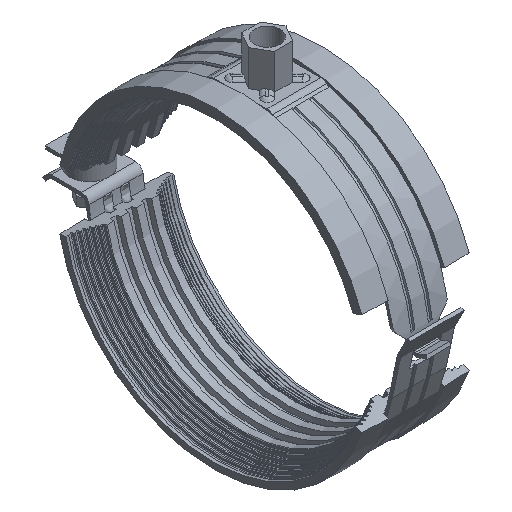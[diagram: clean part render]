
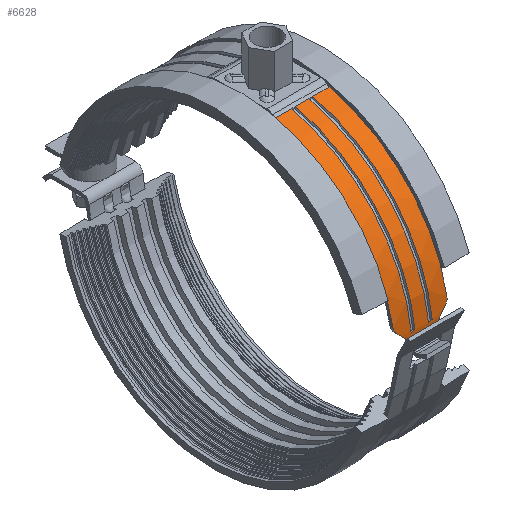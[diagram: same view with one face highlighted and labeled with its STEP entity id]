
A CAD part, isometric view. The second image highlights one B-rep face of the part: STEP entity #6628.
In plain terms, the highlighted cylindrical face has radius 72 mm (diameter 144 mm), a partial arc.
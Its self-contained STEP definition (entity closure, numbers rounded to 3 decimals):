
#41=B_SPLINE_CURVE_WITH_KNOTS('',3,(#10910,#10911,#10912,#10913,#10914,
#10915),.UNSPECIFIED.,.F.,.F.,(4,2,4),(0.861,0.942,
1.131),.UNSPECIFIED.);
#43=B_SPLINE_CURVE_WITH_KNOTS('',3,(#10926,#10927,#10928,#10929,#10930,
#10931),.UNSPECIFIED.,.F.,.F.,(4,2,4),(1.885,2.073,
2.155),.UNSPECIFIED.);
#45=B_SPLINE_CURVE_WITH_KNOTS('',3,(#10948,#10949,#10950,#10951,#10952,
#10953),.UNSPECIFIED.,.F.,.F.,(4,2,4),(0.61,0.763,
0.915),.UNSPECIFIED.);
#46=B_SPLINE_CURVE_WITH_KNOTS('',3,(#10957,#10958,#10959,#10960,#10961,
#10962),.UNSPECIFIED.,.F.,.F.,(4,2,4),(0.302,0.454,
0.607),.UNSPECIFIED.);
#201=ELLIPSE('',#7207,101.823,72.);
#202=ELLIPSE('',#7211,101.823,72.);
#263=CYLINDRICAL_SURFACE('',#7215,72.);
#512=CIRCLE('',#7112,72.);
#513=CIRCLE('',#7113,72.);
#516=CIRCLE('',#7119,72.);
#517=CIRCLE('',#7120,72.);
#564=CIRCLE('',#7213,72.);
#565=CIRCLE('',#7216,72.);
#928=FACE_OUTER_BOUND('',#1286,.T.);
#1286=EDGE_LOOP('',(#5087,#5088,#5089,#5090,#5091,#5092,#5093,#5094,#5095,
#5096,#5097,#5098,#5099,#5100,#5101,#5102,#5103,#5104));
#1641=LINE('',#10470,#2148);
#1649=LINE('',#10505,#2156);
#1692=LINE('',#10773,#2199);
#1693=LINE('',#10777,#2200);
#1694=LINE('',#10778,#2201);
#1713=LINE('',#10963,#2220);
#2148=VECTOR('',#8424,1.776);
#2156=VECTOR('',#8446,1.776);
#2199=VECTOR('',#8597,7.612);
#2200=VECTOR('',#8602,7.612);
#2201=VECTOR('',#8603,6.224);
#2220=VECTOR('',#8700,11.244);
#2742=VERTEX_POINT('',#10453);
#2743=VERTEX_POINT('',#10455);
#2744=VERTEX_POINT('',#10464);
#2745=VERTEX_POINT('',#10466);
#2750=VERTEX_POINT('',#10488);
#2751=VERTEX_POINT('',#10490);
#2752=VERTEX_POINT('',#10499);
#2753=VERTEX_POINT('',#10501);
#2792=VERTEX_POINT('',#10772);
#2793=VERTEX_POINT('',#10775);
#2805=VERTEX_POINT('',#10890);
#2806=VERTEX_POINT('',#10892);
#2808=VERTEX_POINT('',#10897);
#2810=VERTEX_POINT('',#10917);
#2812=VERTEX_POINT('',#10925);
#2814=VERTEX_POINT('',#10940);
#2815=VERTEX_POINT('',#10944);
#2816=VERTEX_POINT('',#10955);
#3488=EDGE_CURVE('',#2742,#2743,#512,.T.);
#3490=EDGE_CURVE('',#2745,#2744,#513,.T.);
#3492=EDGE_CURVE('',#2743,#2745,#1641,.T.);
#3500=EDGE_CURVE('',#2750,#2751,#516,.T.);
#3502=EDGE_CURVE('',#2753,#2752,#517,.T.);
#3504=EDGE_CURVE('',#2751,#2753,#1649,.T.);
#3579=EDGE_CURVE('',#2792,#2742,#1692,.T.);
#3582=EDGE_CURVE('',#2752,#2793,#1693,.T.);
#3583=EDGE_CURVE('',#2744,#2750,#1694,.T.);
#3612=EDGE_CURVE('',#2806,#2805,#201,.T.);
#3617=EDGE_CURVE('',#2808,#2806,#41,.T.);
#3619=EDGE_CURVE('',#2812,#2810,#43,.T.);
#3624=EDGE_CURVE('',#2814,#2812,#202,.T.);
#3626=EDGE_CURVE('',#2792,#2815,#564,.T.);
#3627=EDGE_CURVE('',#2815,#2805,#45,.T.);
#3628=EDGE_CURVE('',#2816,#2793,#565,.T.);
#3629=EDGE_CURVE('',#2814,#2816,#46,.T.);
#3630=EDGE_CURVE('',#2808,#2810,#1713,.T.);
#5087=ORIENTED_EDGE('',*,*,#3490,.T.);
#5088=ORIENTED_EDGE('',*,*,#3583,.T.);
#5089=ORIENTED_EDGE('',*,*,#3500,.T.);
#5090=ORIENTED_EDGE('',*,*,#3504,.T.);
#5091=ORIENTED_EDGE('',*,*,#3502,.T.);
#5092=ORIENTED_EDGE('',*,*,#3582,.T.);
#5093=ORIENTED_EDGE('',*,*,#3628,.F.);
#5094=ORIENTED_EDGE('',*,*,#3629,.F.);
#5095=ORIENTED_EDGE('',*,*,#3624,.T.);
#5096=ORIENTED_EDGE('',*,*,#3619,.T.);
#5097=ORIENTED_EDGE('',*,*,#3630,.F.);
#5098=ORIENTED_EDGE('',*,*,#3617,.T.);
#5099=ORIENTED_EDGE('',*,*,#3612,.T.);
#5100=ORIENTED_EDGE('',*,*,#3627,.F.);
#5101=ORIENTED_EDGE('',*,*,#3626,.F.);
#5102=ORIENTED_EDGE('',*,*,#3579,.T.);
#5103=ORIENTED_EDGE('',*,*,#3488,.T.);
#5104=ORIENTED_EDGE('',*,*,#3492,.T.);
#6628=ADVANCED_FACE('',(#928),#263,.T.);
#7112=AXIS2_PLACEMENT_3D('',#10457,#8416,#8417);
#7113=AXIS2_PLACEMENT_3D('',#10467,#8419,#8420);
#7119=AXIS2_PLACEMENT_3D('',#10492,#8438,#8439);
#7120=AXIS2_PLACEMENT_3D('',#10502,#8441,#8442);
#7207=AXIS2_PLACEMENT_3D('',#10893,#8674,#8675);
#7211=AXIS2_PLACEMENT_3D('',#10942,#8687,#8688);
#7213=AXIS2_PLACEMENT_3D('',#10946,#8692,#8693);
#7215=AXIS2_PLACEMENT_3D('',#10954,#8696,#8697);
#7216=AXIS2_PLACEMENT_3D('',#10956,#8698,#8699);
#8416=DIRECTION('center_axis',(1.,0.,0.));
#8417=DIRECTION('ref_axis',(0.,-0.224,0.975));
#8419=DIRECTION('center_axis',(-1.,0.,0.));
#8420=DIRECTION('ref_axis',(0.,-0.224,0.975));
#8424=DIRECTION('',(-1.,0.,0.));
#8438=DIRECTION('center_axis',(1.,0.,0.));
#8439=DIRECTION('ref_axis',(0.,-0.224,0.975));
#8441=DIRECTION('center_axis',(-1.,0.,0.));
#8442=DIRECTION('ref_axis',(0.,-0.224,0.975));
#8446=DIRECTION('',(-1.,0.,0.));
#8597=DIRECTION('',(-1.,0.,0.));
#8602=DIRECTION('',(-1.,0.,0.));
#8603=DIRECTION('',(-1.,0.,0.));
#8674=DIRECTION('center_axis',(-0.707,0.,0.707));
#8675=DIRECTION('ref_axis',(-0.707,0.,-0.707));
#8687=DIRECTION('center_axis',(0.707,0.,0.707));
#8688=DIRECTION('ref_axis',(0.707,0.,-0.707));
#8692=DIRECTION('center_axis',(1.,0.,0.));
#8693=DIRECTION('ref_axis',(0.,0.224,-0.975));
#8696=DIRECTION('center_axis',(1.,0.,0.));
#8697=DIRECTION('ref_axis',(0.,0.224,-0.975));
#8698=DIRECTION('center_axis',(-1.,0.,0.));
#8699=DIRECTION('ref_axis',(0.,0.224,-0.975));
#8700=DIRECTION('',(-1.,0.,0.));
#10453=CARTESIAN_POINT('',(4.888,-16.148,70.166));
#10455=CARTESIAN_POINT('',(4.888,-71.53,8.215));
#10457=CARTESIAN_POINT('Origin',(4.888,0.,
0.));
#10464=CARTESIAN_POINT('',(3.112,-16.148,70.166));
#10466=CARTESIAN_POINT('',(3.112,-71.53,8.215));
#10467=CARTESIAN_POINT('Origin',(3.112,0.,
0.));
#10470=CARTESIAN_POINT('',(0.,-71.53,8.215));
#10488=CARTESIAN_POINT('',(-3.112,-16.148,70.166));
#10490=CARTESIAN_POINT('',(-3.112,-71.53,8.215));
#10492=CARTESIAN_POINT('Origin',(-3.112,0.,
0.));
#10499=CARTESIAN_POINT('',(-4.888,-16.148,70.166));
#10501=CARTESIAN_POINT('',(-4.888,-71.53,8.215));
#10502=CARTESIAN_POINT('Origin',(-4.888,0.,
0.));
#10505=CARTESIAN_POINT('',(0.,-71.53,8.215));
#10772=CARTESIAN_POINT('',(12.5,-16.148,70.166));
#10773=CARTESIAN_POINT('',(0.,-16.148,70.166));
#10775=CARTESIAN_POINT('',(-12.5,-16.148,70.166));
#10777=CARTESIAN_POINT('',(0.,-16.148,70.166));
#10778=CARTESIAN_POINT('',(0.,-16.148,70.166));
#10890=CARTESIAN_POINT('',(11.328,-71.205,10.668));
#10892=CARTESIAN_POINT('',(6.964,-71.723,6.304));
#10893=CARTESIAN_POINT('Origin',(0.66,0.,0.));
#10897=CARTESIAN_POINT('',(5.622,-71.896,3.866));
#10910=CARTESIAN_POINT('Ctrl Pts',(5.622,-71.896,3.866));
#10911=CARTESIAN_POINT('Ctrl Pts',(5.684,-71.881,4.143));
#10912=CARTESIAN_POINT('Ctrl Pts',(5.771,-71.865,4.419));
#10913=CARTESIAN_POINT('Ctrl Pts',(6.136,-71.807,5.299));
#10914=CARTESIAN_POINT('Ctrl Pts',(6.521,-71.762,5.861));
#10915=CARTESIAN_POINT('Ctrl Pts',(6.964,-71.723,6.304));
#10917=CARTESIAN_POINT('',(-5.622,-71.896,3.866));
#10925=CARTESIAN_POINT('',(-6.964,-71.723,6.304));
#10926=CARTESIAN_POINT('Ctrl Pts',(-6.964,-71.723,
6.304));
#10927=CARTESIAN_POINT('Ctrl Pts',(-6.521,-71.762,
5.861));
#10928=CARTESIAN_POINT('Ctrl Pts',(-6.136,-71.807,5.299));
#10929=CARTESIAN_POINT('Ctrl Pts',(-5.771,-71.865,
4.419));
#10930=CARTESIAN_POINT('Ctrl Pts',(-5.684,-71.881,4.143));
#10931=CARTESIAN_POINT('Ctrl Pts',(-5.622,-71.896,3.866));
#10940=CARTESIAN_POINT('',(-11.328,-71.205,10.668));
#10942=CARTESIAN_POINT('Origin',(-0.66,0.,0.));
#10944=CARTESIAN_POINT('',(12.5,-70.724,13.497));
#10946=CARTESIAN_POINT('Origin',(12.5,0.,0.));
#10948=CARTESIAN_POINT('Ctrl Pts',(12.5,-70.724,13.497));
#10949=CARTESIAN_POINT('Ctrl Pts',(12.5,-70.819,12.996));
#10950=CARTESIAN_POINT('Ctrl Pts',(12.4,-70.915,12.46));
#10951=CARTESIAN_POINT('Ctrl Pts',(11.992,-71.081,11.475));
#10952=CARTESIAN_POINT('Ctrl Pts',(11.685,-71.152,11.025));
#10953=CARTESIAN_POINT('Ctrl Pts',(11.328,-71.205,10.668));
#10954=CARTESIAN_POINT('Origin',(0.,0.,0.));
#10955=CARTESIAN_POINT('',(-12.5,-70.724,13.497));
#10956=CARTESIAN_POINT('Origin',(-12.5,0.,0.));
#10957=CARTESIAN_POINT('Ctrl Pts',(-11.328,-71.205,10.668));
#10958=CARTESIAN_POINT('Ctrl Pts',(-11.685,-71.152,
11.025));
#10959=CARTESIAN_POINT('Ctrl Pts',(-11.992,-71.081,
11.475));
#10960=CARTESIAN_POINT('Ctrl Pts',(-12.4,-70.915,
12.46));
#10961=CARTESIAN_POINT('Ctrl Pts',(-12.5,-70.819,12.996));
#10962=CARTESIAN_POINT('Ctrl Pts',(-12.5,-70.724,13.497));
#10963=CARTESIAN_POINT('',(0.,-71.896,3.866));
